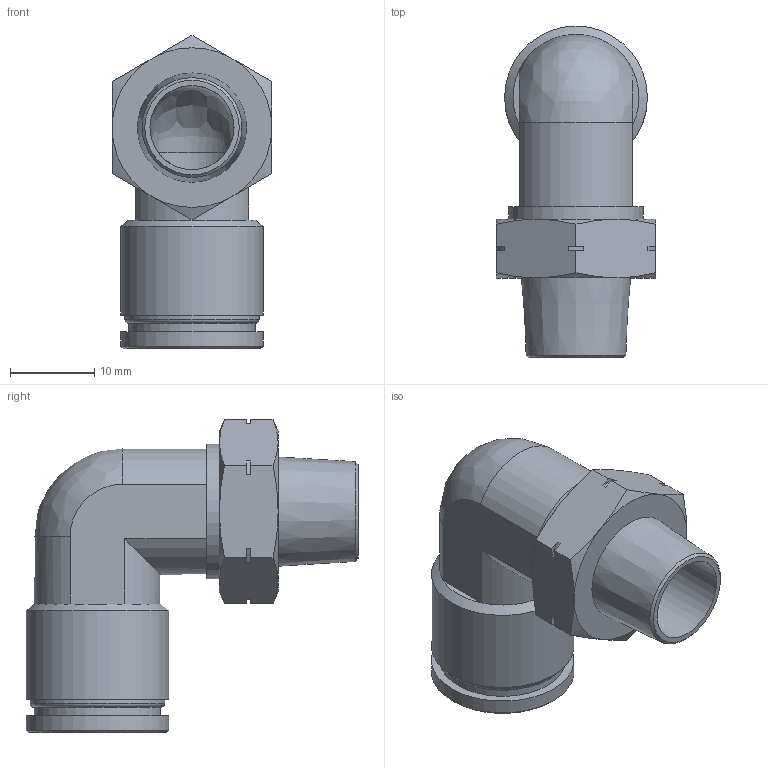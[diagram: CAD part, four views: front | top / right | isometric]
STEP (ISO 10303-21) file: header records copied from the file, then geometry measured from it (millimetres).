
FILE_DESCRIPTION(/* description */ (''),/* implementation_level */ '2;1');
FILE_NAME(/* name */ 'LXH21 0012 N2.stp',/* time_stamp */ '2026-05-01T13:11:14+02:00',/* author */ ('freju'),/* organization */ (''),/* preprocessor_version */ 'ST-DEVELOPER v20.1',/* originating_system */ 'Autodesk Inventor 2026',/* authorisation */ '');
FILE_SCHEMA (('AUTOMOTIVE_DESIGN { 1 0 10303 214 3 1 1 }'));
Length unit declared in the file: millimetre
Products named in the file (1): LXH21 0012 N2
Bounding box: 19 x 39.5 x 37.27 mm (x, y, z)
Volume: 5738.8 mm3; surface area: 5220.3 mm2
Topology: 1 solids, 1 shells, 67 faces, 162 edges, 101 vertices
Faces by surface type: plane 30, cylinder 18, cone 16, bspline 2, torus 1
Full cylindrical faces by diameter (mm): 10 x2, 12 x1, 15 x1, 16 x2, 17 x2
Entity records: 1991 total; most frequent: CARTESIAN_POINT 411, DIRECTION 332, ORIENTED_EDGE 320, EDGE_CURVE 160, AXIS2_PLACEMENT_3D 130, VERTEX_POINT 101, EDGE_LOOP 75, LINE 72
